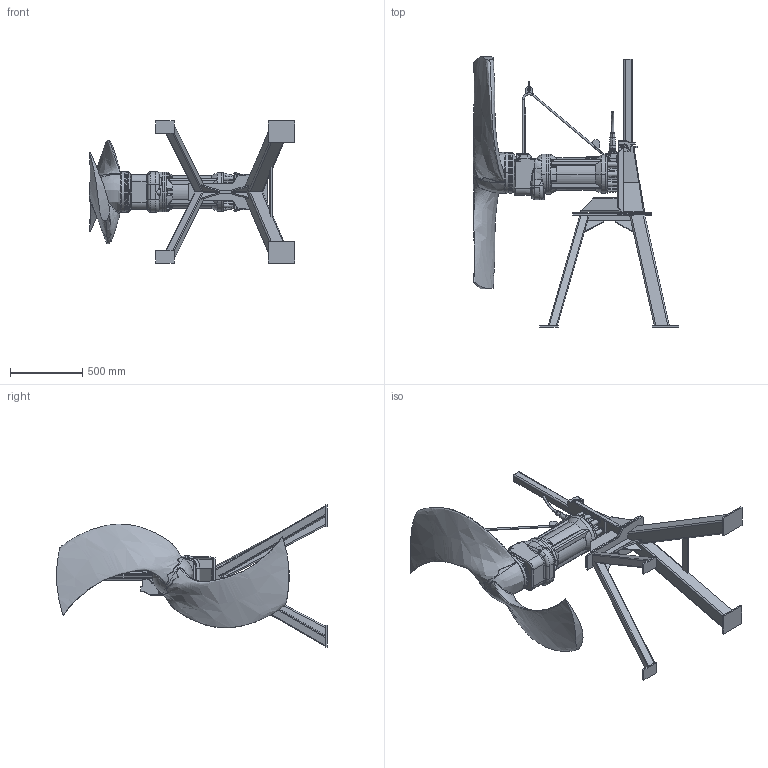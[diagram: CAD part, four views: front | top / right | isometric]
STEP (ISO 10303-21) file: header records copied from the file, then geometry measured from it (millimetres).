
FILE_DESCRIPTION (( 'STEP AP214' ), '1' );
FILE_NAME ('XSB1600 SP 780.STEP', '2013-04-15T10:54:12', ( 'HP' ), ( '' ), 'SwSTEP 2.0', 'SolidWorks 2011', '' );
FILE_SCHEMA (( 'AUTOMOTIVE_DESIGN' ));
Length unit declared in the file: millimetre
Products named in the file (1): XSB1600 SP 780
Bounding box: 1417.12 x 1867.7 x 980.86 mm (x, y, z)
Volume: 120646693.2 mm3; surface area: 4851680.6 mm2
Topology: 3 solids, 3 shells, 1828 faces, 4568 edges, 2697 vertices
Faces by surface type: plane 527, bspline 506, cylinder 394, torus 259, cone 76, sphere 66
Entity records: 422413 total; most frequent: CARTESIAN_POINT 382587, ORIENTED_EDGE 8974, DIRECTION 7617, EDGE_CURVE 4487, AXIS2_PLACEMENT_3D 2974, VERTEX_POINT 2692, EDGE_LOOP 1895, FACE_OUTER_BOUND 1828
